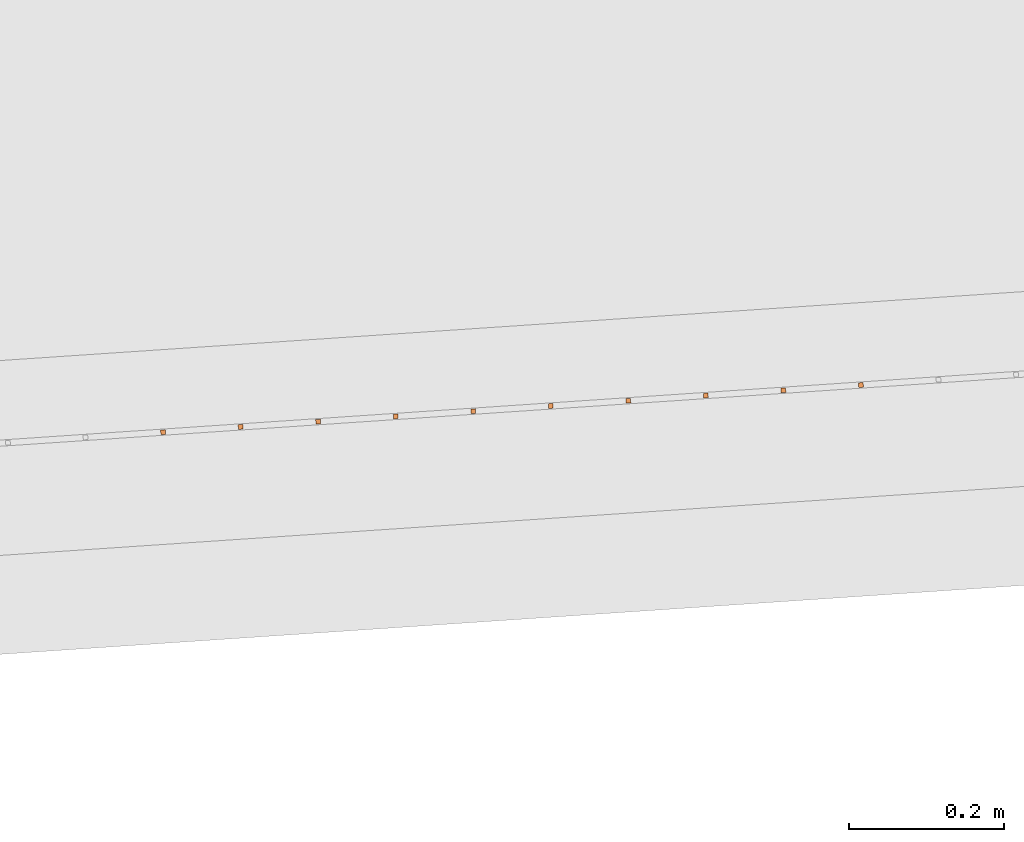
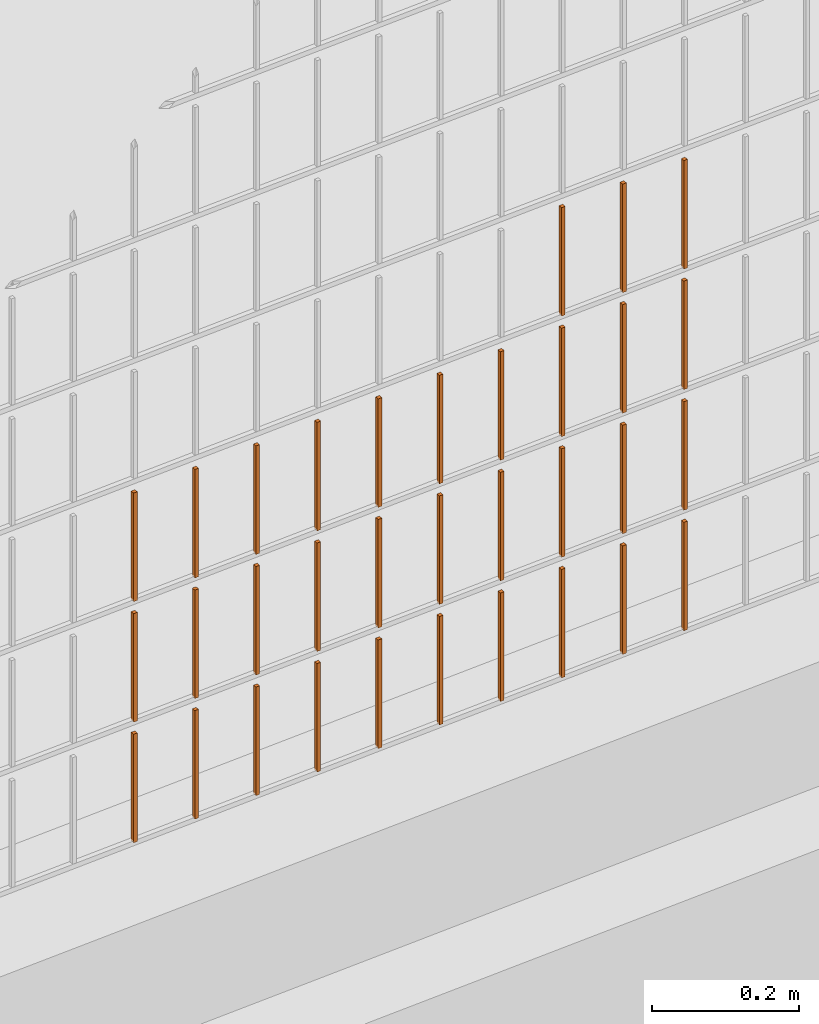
# One storey, part 325 of 1809: 33 proxies, 1 element without a shape of its own.
"""IFC2X3 building model written with IfcOpenShell, lengths in millimetres."""

from ifc_helpers import new_model, entity, si_unit, converted_unit, derived_unit, money_unit, direction, frame, origin_with_axes, place, context, subcontext, project, spatial, faceted_brep, source, transform, mapped, material, type_object, element, aggregate, save


model = new_model("IFC2X3")

# Units and contexts
model_context = context("Model", 3, precision=0.01, world=origin_with_axes(), true_north=direction((0.0, 1.0)))
body_context = subcontext(model_context, "Body", "Model", "MODEL_VIEW")
ifc_project = project(units=[si_unit("LENGTHUNIT", "METRE", prefix="MILLI"), si_unit("AREAUNIT", "SQUARE_METRE"), si_unit("VOLUMEUNIT", "CUBIC_METRE"), converted_unit("PLANEANGLEUNIT", "DEGREE", entity("IfcPlaneAngleMeasure", 0.0174532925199), si_unit("PLANEANGLEUNIT", "RADIAN"), dimensions=[0, 0, 0, 0, 0, 0, 0]), si_unit("SOLIDANGLEUNIT", "STERADIAN"), money_unit("EUR"), converted_unit("TIMEUNIT", "Year", entity("IfcTimeMeasure", 31556926.0), si_unit("TIMEUNIT", "SECOND"), dimensions=[0, 0, 1, 0, 0, 0, 0]), si_unit("MASSUNIT", "GRAM", prefix="KILO"), si_unit("THERMODYNAMICTEMPERATUREUNIT", "DEGREE_CELSIUS"), si_unit("LUMINOUSINTENSITYUNIT", "LUMEN"), si_unit("ENERGYUNIT", "JOULE", prefix="MEGA"), derived_unit("THERMALCONDUCTANCEUNIT", [(si_unit("POWERUNIT", "WATT"), 1), (si_unit("LENGTHUNIT", "METRE"), -1), (si_unit("THERMODYNAMICTEMPERATUREUNIT", "KELVIN"), -1)]), derived_unit("SPECIFICHEATCAPACITYUNIT", [(si_unit("ENERGYUNIT", "JOULE"), 1), (si_unit("MASSUNIT", "GRAM", prefix="KILO"), -1), (si_unit("THERMODYNAMICTEMPERATUREUNIT", "KELVIN"), -1)]), derived_unit("MASSDENSITYUNIT", [(si_unit("MASSUNIT", "GRAM", prefix="KILO"), 1), (si_unit("VOLUMEUNIT", "CUBIC_METRE"), -1)])], contexts=[model_context])

# Site, building, storey
site_placement = place(None, origin_with_axes())
site = spatial("IfcSite", under=ifc_project, at=site_placement, Name="Politse- ja Piirivalveameti ning Päästeameti ühishoone", CompositionType="ELEMENT")
building_placement = place(site_placement, origin_with_axes())
building = spatial("IfcBuilding", under=site, at=building_placement, Name="Politse- ja Piirivalveameti ning Päästeameti ühishoone", CompositionType="ELEMENT")
storey_placement = place(building_placement, origin_with_axes())
storey = spatial("IfcBuildingStorey", under=building, at=storey_placement, Name="Esimene korrus", CompositionType="ELEMENT", Elevation=0.0)

# Proxies
building_element_proxy_type_1 = type_object("IfcBuildingElementProxyType", Name="Railing Type", PredefinedType="NOTDEFINED")
proxy_1_placement = place(storey_placement, frame((89252.001212, -29183.4766571, 203.661247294), z_axis=(0.0, 0.0, 1.0), x_axis=(1.0, 0.0, 0.0)))
proxy_1 = element("IfcBuildingElementProxy", 1, at=proxy_1_placement, inside=storey, type_object=building_element_proxy_type_1, Name="PIIRDEAED")
ifc_material = material(Name="ET-03_Raud")
building_element_proxy_type_2 = type_object("IfcBuildingElementProxyType", Name="IfcBuildingElementProxy", PredefinedType="NOTDEFINED")
shared_shape_1 = source(origin_with_axes(), body_context, "Body", "Brep", [
    faceted_brep([(3.0, 3.0, -0.000752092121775), (-3.0, 3.0, -0.000752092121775), (-3.0, 3.0, 179.99926046), (3.0, 3.0, 179.99926046), (3.0, -3.0, 0.000752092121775), (-3.0, -3.0, 0.000752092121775), (-3.0, -3.0, 180.000764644), (3.0, -3.0, 180.000764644)], [[[0, 1, 2, 3]], [[0, 4, 5, 1]], [[1, 5, 6, 2]], [[3, 2, 6, 7]], [[4, 0, 3, 7]], [[5, 4, 7, 6]]]),
])
proxy_2_placement = place(proxy_1_placement, frame((-35745.2370775, -19712.2306285, 18.25272892), z_axis=(0.0, 0.0, 1.0), x_axis=(1.0, 0.0, 0.0)))
proxy_2 = element("IfcBuildingElementProxy", 2, at=proxy_2_placement, type_object=building_element_proxy_type_2, material=ifc_material, Name="BALUSTER - 001", context=body_context, shape_type="MappedRepresentation", body=[
    mapped(shared_shape_1, transform((0.0, 0.0, 0.0), x_axis=(-0.0673926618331, 0.997726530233, 0.0), y_axis=(-0.997726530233, -0.0673926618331, 0.0), z_axis=(0.0, 0.0, 1.0))),
])
shared_shape_2 = source(origin_with_axes(), body_context, "Body", "Brep", [
    faceted_brep([(3.0, 3.0, -0.000752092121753), (-3.0, 3.0, -0.000752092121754), (-3.0, 3.0, 179.99926046), (3.0, 3.0, 179.99926046), (3.0, -3.0, 0.000752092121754), (-3.0, -3.0, 0.000752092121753), (-3.0, -3.0, 180.000764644), (3.0, -3.0, 180.000764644)], [[[0, 1, 2, 3]], [[0, 4, 5, 1]], [[1, 5, 6, 2]], [[3, 2, 6, 7]], [[4, 0, 3, 7]], [[5, 4, 7, 6]]]),
])
proxy_3_placement = place(proxy_1_placement, frame((-36044.5550366, -19732.4484271, 18.1775197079), z_axis=(0.0, 0.0, 1.0), x_axis=(1.0, 0.0, 0.0)))
proxy_3 = element("IfcBuildingElementProxy", 3, at=proxy_3_placement, type_object=building_element_proxy_type_2, material=ifc_material, Name="BALUSTER - 001", context=body_context, shape_type="MappedRepresentation", body=[
    mapped(shared_shape_2, transform((0.0, 0.0, 0.0), x_axis=(-0.0673926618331, 0.997726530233, 0.0), y_axis=(-0.997726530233, -0.0673926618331, 0.0), z_axis=(0.0, 0.0, 1.0))),
])
shared_shape_3 = source(origin_with_axes(), body_context, "Body", "Brep", [
    faceted_brep([(3.0, 3.0, -0.000752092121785), (-3.0, 3.0, -0.000752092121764), (-3.0, 3.0, 179.99926046), (3.0, 3.0, 179.99926046), (3.0, -3.0, 0.000752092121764), (-3.0, -3.0, 0.000752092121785), (-3.0, -3.0, 180.000764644), (3.0, -3.0, 180.000764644)], [[[0, 1, 2, 3]], [[0, 4, 5, 1]], [[1, 5, 6, 2]], [[3, 2, 6, 7]], [[4, 0, 3, 7]], [[5, 4, 7, 6]]]),
])
proxy_4_placement = place(proxy_1_placement, frame((-36144.3276896, -19739.1876933, 18.1524499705), z_axis=(0.0, 0.0, 1.0), x_axis=(1.0, 0.0, 0.0)))
proxy_4 = element("IfcBuildingElementProxy", 4, at=proxy_4_placement, type_object=building_element_proxy_type_2, material=ifc_material, Name="BALUSTER - 001", context=body_context, shape_type="MappedRepresentation", body=[
    mapped(shared_shape_3, transform((0.0, 0.0, 0.0), x_axis=(-0.0673926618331, 0.997726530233, 0.0), y_axis=(-0.997726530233, -0.0673926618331, 0.0), z_axis=(0.0, 0.0, 1.0))),
])
shared_shape_4 = source(origin_with_axes(), body_context, "Body", "Brep", [
    faceted_brep([(3.0, 3.0, -0.000752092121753), (-3.0, 3.0, -0.000752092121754), (-3.0, 3.0, 179.99926046), (3.0, 3.0, 179.99926046), (3.0, -3.0, 0.000752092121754), (-3.0, -3.0, 0.000752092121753), (-3.0, -3.0, 180.000764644), (3.0, -3.0, 180.000764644)], [[[0, 1, 2, 3]], [[0, 4, 5, 1]], [[1, 5, 6, 2]], [[3, 2, 6, 7]], [[4, 0, 3, 7]], [[5, 4, 7, 6]]]),
])
proxy_5_placement = place(proxy_1_placement, frame((-36044.5550366, -19732.4484271, 218.177519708), z_axis=(0.0, 0.0, 1.0), x_axis=(1.0, 0.0, 0.0)))
proxy_5 = element("IfcBuildingElementProxy", 5, at=proxy_5_placement, type_object=building_element_proxy_type_2, material=ifc_material, Name="BALUSTER - 001", context=body_context, shape_type="MappedRepresentation", body=[
    mapped(shared_shape_4, transform((0.0, 0.0, 0.0), x_axis=(-0.0673926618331, 0.997726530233, 0.0), y_axis=(-0.997726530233, -0.0673926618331, 0.0), z_axis=(0.0, 0.0, 1.0))),
])
shared_shape_5 = source(origin_with_axes(), body_context, "Body", "Brep", [
    faceted_brep([(3.0, 3.0, -0.000752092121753), (-3.0, 3.0, -0.000752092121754), (-3.0, 3.0, 179.99926046), (3.0, 3.0, 179.99926046), (3.0, -3.0, 0.000752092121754), (-3.0, -3.0, 0.000752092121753), (-3.0, -3.0, 180.000764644), (3.0, -3.0, 180.000764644)], [[[0, 1, 2, 3]], [[0, 4, 5, 1]], [[1, 5, 6, 2]], [[3, 2, 6, 7]], [[4, 0, 3, 7]], [[5, 4, 7, 6]]]),
])
proxy_6_placement = place(proxy_1_placement, frame((-36044.5550366, -19732.4484271, 418.177519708), z_axis=(0.0, 0.0, 1.0), x_axis=(1.0, 0.0, 0.0)))
proxy_6 = element("IfcBuildingElementProxy", 6, at=proxy_6_placement, type_object=building_element_proxy_type_2, material=ifc_material, Name="BALUSTER - 001", context=body_context, shape_type="MappedRepresentation", body=[
    mapped(shared_shape_5, transform((0.0, 0.0, 0.0), x_axis=(-0.0673926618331, 0.997726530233, 0.0), y_axis=(-0.997726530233, -0.0673926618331, 0.0), z_axis=(0.0, 0.0, 1.0))),
])
shared_shape_6 = source(origin_with_axes(), body_context, "Body", "Brep", [
    faceted_brep([(3.0, 3.0, -0.000752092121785), (-3.0, 3.0, -0.000752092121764), (-3.0, 3.0, 179.99926046), (3.0, 3.0, 179.99926046), (3.0, -3.0, 0.000752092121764), (-3.0, -3.0, 0.000752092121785), (-3.0, -3.0, 180.000764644), (3.0, -3.0, 180.000764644)], [[[0, 1, 2, 3]], [[0, 4, 5, 1]], [[1, 5, 6, 2]], [[3, 2, 6, 7]], [[4, 0, 3, 7]], [[5, 4, 7, 6]]]),
])
proxy_7_placement = place(proxy_1_placement, frame((-36144.3276896, -19739.1876933, 218.15244997), z_axis=(0.0, 0.0, 1.0), x_axis=(1.0, 0.0, 0.0)))
proxy_7 = element("IfcBuildingElementProxy", 7, at=proxy_7_placement, type_object=building_element_proxy_type_2, material=ifc_material, Name="BALUSTER - 001", context=body_context, shape_type="MappedRepresentation", body=[
    mapped(shared_shape_6, transform((0.0, 0.0, 0.0), x_axis=(-0.0673926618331, 0.997726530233, 0.0), y_axis=(-0.997726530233, -0.0673926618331, 0.0), z_axis=(0.0, 0.0, 1.0))),
])
shared_shape_7 = source(origin_with_axes(), body_context, "Body", "Brep", [
    faceted_brep([(3.0, 3.0, -0.000752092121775), (-3.0, 3.0, -0.000752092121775), (-3.0, 3.0, 179.99926046), (3.0, 3.0, 179.99926046), (3.0, -3.0, 0.000752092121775), (-3.0, -3.0, 0.000752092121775), (-3.0, -3.0, 180.000764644), (3.0, -3.0, 180.000764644)], [[[0, 1, 2, 3]], [[0, 4, 5, 1]], [[1, 5, 6, 2]], [[3, 2, 6, 7]], [[4, 0, 3, 7]], [[5, 4, 7, 6]]]),
])
proxy_8_placement = place(proxy_1_placement, frame((-35745.2370775, -19712.2306285, 218.25272892), z_axis=(0.0, 0.0, 1.0), x_axis=(1.0, 0.0, 0.0)))
proxy_8 = element("IfcBuildingElementProxy", 8, at=proxy_8_placement, type_object=building_element_proxy_type_2, material=ifc_material, Name="BALUSTER - 001", context=body_context, shape_type="MappedRepresentation", body=[
    mapped(shared_shape_7, transform((0.0, 0.0, 0.0), x_axis=(-0.0673926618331, 0.997726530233, 0.0), y_axis=(-0.997726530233, -0.0673926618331, 0.0), z_axis=(0.0, 0.0, 1.0))),
])
shared_shape_8 = source(origin_with_axes(), body_context, "Body", "Brep", [
    faceted_brep([(3.0, 3.0, -0.000752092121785), (-3.0, 3.0, -0.000752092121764), (-3.0, 3.0, 179.99926046), (3.0, 3.0, 179.99926046), (3.0, -3.0, 0.000752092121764), (-3.0, -3.0, 0.000752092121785), (-3.0, -3.0, 180.000764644), (3.0, -3.0, 180.000764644)], [[[0, 1, 2, 3]], [[0, 4, 5, 1]], [[1, 5, 6, 2]], [[3, 2, 6, 7]], [[4, 0, 3, 7]], [[5, 4, 7, 6]]]),
])
proxy_9_placement = place(proxy_1_placement, frame((-36144.3276896, -19739.1876933, 418.15244997), z_axis=(0.0, 0.0, 1.0), x_axis=(1.0, 0.0, 0.0)))
proxy_9 = element("IfcBuildingElementProxy", 9, at=proxy_9_placement, type_object=building_element_proxy_type_2, material=ifc_material, Name="BALUSTER - 001", context=body_context, shape_type="MappedRepresentation", body=[
    mapped(shared_shape_8, transform((0.0, 0.0, 0.0), x_axis=(-0.0673926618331, 0.997726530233, 0.0), y_axis=(-0.997726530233, -0.0673926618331, 0.0), z_axis=(0.0, 0.0, 1.0))),
])
shared_shape_9 = source(origin_with_axes(), body_context, "Body", "Brep", [
    faceted_brep([(3.0, 3.0, -0.000752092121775), (-3.0, 3.0, -0.000752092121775), (-3.0, 3.0, 179.99926046), (3.0, 3.0, 179.99926046), (3.0, -3.0, 0.000752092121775), (-3.0, -3.0, 0.000752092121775), (-3.0, -3.0, 180.000764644), (3.0, -3.0, 180.000764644)], [[[0, 1, 2, 3]], [[0, 4, 5, 1]], [[1, 5, 6, 2]], [[3, 2, 6, 7]], [[4, 0, 3, 7]], [[5, 4, 7, 6]]]),
])
proxy_10_placement = place(proxy_1_placement, frame((-35745.2370775, -19712.2306285, 418.25272892), z_axis=(0.0, 0.0, 1.0), x_axis=(1.0, 0.0, 0.0)))
proxy_10 = element("IfcBuildingElementProxy", 10, at=proxy_10_placement, type_object=building_element_proxy_type_2, material=ifc_material, Name="BALUSTER - 001", context=body_context, shape_type="MappedRepresentation", body=[
    mapped(shared_shape_9, transform((0.0, 0.0, 0.0), x_axis=(-0.0673926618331, 0.997726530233, 0.0), y_axis=(-0.997726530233, -0.0673926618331, 0.0), z_axis=(0.0, 0.0, 1.0))),
])
shared_shape_10 = source(origin_with_axes(), body_context, "Body", "Brep", [
    faceted_brep([(3.0, 3.0, -0.000752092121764), (-3.0, 3.0, -0.000752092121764), (-3.0, 3.0, 179.99926046), (3.0, 3.0, 179.99926046), (3.0, -3.0, 0.000752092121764), (-3.0, -3.0, 0.000752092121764), (-3.0, -3.0, 180.000764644), (3.0, -3.0, 180.000764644)], [[[0, 1, 2, 3]], [[0, 4, 5, 1]], [[1, 5, 6, 2]], [[3, 2, 6, 7]], [[4, 0, 3, 7]], [[5, 4, 7, 6]]]),
])
proxy_11_placement = place(proxy_1_placement, frame((-35845.0097306, -19718.9698947, 18.2276591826), z_axis=(0.0, 0.0, 1.0), x_axis=(1.0, 0.0, 0.0)))
proxy_11 = element("IfcBuildingElementProxy", 11, at=proxy_11_placement, type_object=building_element_proxy_type_2, material=ifc_material, Name="BALUSTER - 001", context=body_context, shape_type="MappedRepresentation", body=[
    mapped(shared_shape_10, transform((0.0, 0.0, 0.0), x_axis=(-0.0673926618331, 0.997726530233, 0.0), y_axis=(-0.997726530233, -0.0673926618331, 0.0), z_axis=(0.0, 0.0, 1.0))),
])
shared_shape_11 = source(origin_with_axes(), body_context, "Body", "Brep", [
    faceted_brep([(3.0, 3.0, -0.000752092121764), (-3.0, 3.0, -0.000752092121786), (-3.0, 3.0, 179.99926046), (3.0, 3.0, 179.99926046), (3.0, -3.0, 0.000752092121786), (-3.0, -3.0, 0.000752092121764), (-3.0, -3.0, 180.000764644), (3.0, -3.0, 180.000764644)], [[[0, 1, 2, 3]], [[0, 4, 5, 1]], [[1, 5, 6, 2]], [[3, 2, 6, 7]], [[4, 0, 3, 7]], [[5, 4, 7, 6]]]),
])
proxy_12_placement = place(proxy_1_placement, frame((-35645.4644245, -19705.4913624, 18.2777986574), z_axis=(0.0, 0.0, 1.0), x_axis=(1.0, 0.0, 0.0)))
proxy_12 = element("IfcBuildingElementProxy", 12, at=proxy_12_placement, type_object=building_element_proxy_type_2, material=ifc_material, Name="BALUSTER - 001", context=body_context, shape_type="MappedRepresentation", body=[
    mapped(shared_shape_11, transform((0.0, 0.0, 0.0), x_axis=(-0.0673926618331, 0.997726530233, 0.0), y_axis=(-0.997726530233, -0.0673926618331, 0.0), z_axis=(0.0, 0.0, 1.0))),
])
proxy_13_placement = place(proxy_1_placement, frame((-35645.4644245, -19705.4913624, 218.277798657), z_axis=(0.0, 0.0, 1.0), x_axis=(1.0, 0.0, 0.0)))
proxy_13 = element("IfcBuildingElementProxy", 13, at=proxy_13_placement, type_object=building_element_proxy_type_2, material=ifc_material, Name="BALUSTER - 001", context=body_context, shape_type="MappedRepresentation", body=[
    mapped(shared_shape_11, transform((0.0, 0.0, 0.0), x_axis=(-0.0673926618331, 0.997726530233, 0.0), y_axis=(-0.997726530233, -0.0673926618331, 0.0), z_axis=(0.0, 0.0, 1.0))),
])
shared_shape_12 = source(origin_with_axes(), body_context, "Body", "Brep", [
    faceted_brep([(3.0, 3.0, -0.000752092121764), (-3.0, 3.0, -0.000752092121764), (-3.0, 3.0, 179.99926046), (3.0, 3.0, 179.99926046), (3.0, -3.0, 0.000752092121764), (-3.0, -3.0, 0.000752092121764), (-3.0, -3.0, 180.000764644), (3.0, -3.0, 180.000764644)], [[[0, 1, 2, 3]], [[0, 4, 5, 1]], [[1, 5, 6, 2]], [[3, 2, 6, 7]], [[4, 0, 3, 7]], [[5, 4, 7, 6]]]),
])
proxy_14_placement = place(proxy_1_placement, frame((-35845.0097306, -19718.9698947, 218.227659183), z_axis=(0.0, 0.0, 1.0), x_axis=(1.0, 0.0, 0.0)))
proxy_14 = element("IfcBuildingElementProxy", 14, at=proxy_14_placement, type_object=building_element_proxy_type_2, material=ifc_material, Name="BALUSTER - 001", context=body_context, shape_type="MappedRepresentation", body=[
    mapped(shared_shape_12, transform((0.0, 0.0, 0.0), x_axis=(-0.0673926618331, 0.997726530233, 0.0), y_axis=(-0.997726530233, -0.0673926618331, 0.0), z_axis=(0.0, 0.0, 1.0))),
])
proxy_15_placement = place(proxy_1_placement, frame((-35845.0097306, -19718.9698947, 418.227659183), z_axis=(0.0, 0.0, 1.0), x_axis=(1.0, 0.0, 0.0)))
proxy_15 = element("IfcBuildingElementProxy", 15, at=proxy_15_placement, type_object=building_element_proxy_type_2, material=ifc_material, Name="BALUSTER - 001", context=body_context, shape_type="MappedRepresentation", body=[
    mapped(shared_shape_12, transform((0.0, 0.0, 0.0), x_axis=(-0.0673926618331, 0.997726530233, 0.0), y_axis=(-0.997726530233, -0.0673926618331, 0.0), z_axis=(0.0, 0.0, 1.0))),
])
shared_shape_13 = source(origin_with_axes(), body_context, "Body", "Brep", [
    faceted_brep([(3.0, 3.0, -0.000752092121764), (-3.0, 3.0, -0.000752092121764), (-3.0, 3.0, 179.99926046), (3.0, 3.0, 179.99926046), (3.0, -3.0, 0.000752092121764), (-3.0, -3.0, 0.000752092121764), (-3.0, -3.0, 180.000764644), (3.0, -3.0, 180.000764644)], [[[0, 1, 2, 3]], [[0, 4, 5, 1]], [[1, 5, 6, 2]], [[3, 2, 6, 7]], [[4, 0, 3, 7]], [[5, 4, 7, 6]]]),
])
proxy_16_placement = place(proxy_1_placement, frame((-35346.1464654, -19685.2735638, 218.35300787), z_axis=(0.0, 0.0, 1.0), x_axis=(1.0, 0.0, 0.0)))
proxy_16 = element("IfcBuildingElementProxy", 16, at=proxy_16_placement, type_object=building_element_proxy_type_2, material=ifc_material, Name="BALUSTER - 001", context=body_context, shape_type="MappedRepresentation", body=[
    mapped(shared_shape_13, transform((0.0, 0.0, 0.0), x_axis=(-0.0673926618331, 0.997726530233, 0.0), y_axis=(-0.997726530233, -0.0673926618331, 0.0), z_axis=(0.0, 0.0, 1.0))),
])
proxy_17_placement = place(proxy_1_placement, frame((-35346.1464654, -19685.2735638, 418.35300787), z_axis=(0.0, 0.0, 1.0), x_axis=(1.0, 0.0, 0.0)))
proxy_17 = element("IfcBuildingElementProxy", 17, at=proxy_17_placement, type_object=building_element_proxy_type_2, material=ifc_material, Name="BALUSTER - 001", context=body_context, shape_type="MappedRepresentation", body=[
    mapped(shared_shape_13, transform((0.0, 0.0, 0.0), x_axis=(-0.0673926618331, 0.997726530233, 0.0), y_axis=(-0.997726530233, -0.0673926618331, 0.0), z_axis=(0.0, 0.0, 1.0))),
])
shared_shape_14 = source(origin_with_axes(), body_context, "Body", "Brep", [
    faceted_brep([(3.0, 3.0, -0.000752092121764), (-3.0, 3.0, -0.000752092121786), (-3.0, 3.0, 179.99926046), (3.0, 3.0, 179.99926046), (3.0, -3.0, 0.000752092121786), (-3.0, -3.0, 0.000752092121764), (-3.0, -3.0, 180.000764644), (3.0, -3.0, 180.000764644)], [[[0, 1, 2, 3]], [[0, 4, 5, 1]], [[1, 5, 6, 2]], [[3, 2, 6, 7]], [[4, 0, 3, 7]], [[5, 4, 7, 6]]]),
])
proxy_18_placement = place(proxy_1_placement, frame((-35445.9191185, -19692.01283, 418.327938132), z_axis=(0.0, 0.0, 1.0), x_axis=(1.0, 0.0, 0.0)))
proxy_18 = element("IfcBuildingElementProxy", 18, at=proxy_18_placement, type_object=building_element_proxy_type_2, material=ifc_material, Name="BALUSTER - 001", context=body_context, shape_type="MappedRepresentation", body=[
    mapped(shared_shape_14, transform((0.0, 0.0, 0.0), x_axis=(-0.0673926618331, 0.997726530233, 0.0), y_axis=(-0.997726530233, -0.0673926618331, 0.0), z_axis=(0.0, 0.0, 1.0))),
])
proxy_19_placement = place(proxy_1_placement, frame((-35645.4644245, -19705.4913624, 418.277798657), z_axis=(0.0, 0.0, 1.0), x_axis=(1.0, 0.0, 0.0)))
proxy_19 = element("IfcBuildingElementProxy", 19, at=proxy_19_placement, type_object=building_element_proxy_type_2, material=ifc_material, Name="BALUSTER - 001", context=body_context, shape_type="MappedRepresentation", body=[
    mapped(shared_shape_14, transform((0.0, 0.0, 0.0), x_axis=(-0.0673926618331, 0.997726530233, 0.0), y_axis=(-0.997726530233, -0.0673926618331, 0.0), z_axis=(0.0, 0.0, 1.0))),
])
proxy_20_placement = place(proxy_1_placement, frame((-35445.9191185, -19692.01283, 618.327938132), z_axis=(0.0, 0.0, 1.0), x_axis=(1.0, 0.0, 0.0)))
proxy_20 = element("IfcBuildingElementProxy", 20, at=proxy_20_placement, type_object=building_element_proxy_type_2, material=ifc_material, Name="BALUSTER - 001", context=body_context, shape_type="MappedRepresentation", body=[
    mapped(shared_shape_14, transform((0.0, 0.0, 0.0), x_axis=(-0.0673926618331, 0.997726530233, 0.0), y_axis=(-0.997726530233, -0.0673926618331, 0.0), z_axis=(0.0, 0.0, 1.0))),
])
shared_shape_15 = source(origin_with_axes(), body_context, "Body", "Brep", [
    faceted_brep([(3.0, 3.0, -0.000752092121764), (-3.0, 3.0, -0.000752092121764), (-3.0, 3.0, 179.99926046), (3.0, 3.0, 179.99926046), (3.0, -3.0, 0.000752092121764), (-3.0, -3.0, 0.000752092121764), (-3.0, -3.0, 180.000764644), (3.0, -3.0, 180.000764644)], [[[0, 1, 2, 3]], [[0, 4, 5, 1]], [[1, 5, 6, 2]], [[3, 2, 6, 7]], [[4, 0, 3, 7]], [[5, 4, 7, 6]]]),
])
proxy_21_placement = place(proxy_1_placement, frame((-35944.7823836, -19725.7091609, 218.202589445), z_axis=(0.0, 0.0, 1.0), x_axis=(1.0, 0.0, 0.0)))
proxy_21 = element("IfcBuildingElementProxy", 21, at=proxy_21_placement, type_object=building_element_proxy_type_2, material=ifc_material, Name="BALUSTER - 001", context=body_context, shape_type="MappedRepresentation", body=[
    mapped(shared_shape_15, transform((0.0, 0.0, 0.0), x_axis=(-0.0673926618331, 0.997726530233, 0.0), y_axis=(-0.997726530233, -0.0673926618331, 0.0), z_axis=(0.0, 0.0, 1.0))),
])
shared_shape_16 = source(origin_with_axes(), body_context, "Body", "Brep", [
    faceted_brep([(3.0, 3.0, -0.000752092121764), (-3.0, 3.0, -0.000752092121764), (-3.0, 3.0, 179.99926046), (3.0, 3.0, 179.99926046), (3.0, -3.0, 0.000752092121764), (-3.0, -3.0, 0.000752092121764), (-3.0, -3.0, 180.000764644), (3.0, -3.0, 180.000764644)], [[[0, 1, 2, 3]], [[0, 4, 5, 1]], [[1, 5, 6, 2]], [[3, 2, 6, 7]], [[4, 0, 3, 7]], [[5, 4, 7, 6]]]),
])
proxy_22_placement = place(proxy_1_placement, frame((-35346.1464654, -19685.2735638, 618.35300787), z_axis=(0.0, 0.0, 1.0), x_axis=(1.0, 0.0, 0.0)))
proxy_22 = element("IfcBuildingElementProxy", 22, at=proxy_22_placement, type_object=building_element_proxy_type_2, material=ifc_material, Name="BALUSTER - 001", context=body_context, shape_type="MappedRepresentation", body=[
    mapped(shared_shape_16, transform((0.0, 0.0, 0.0), x_axis=(-0.0673926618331, 0.997726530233, 0.0), y_axis=(-0.997726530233, -0.0673926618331, 0.0), z_axis=(0.0, 0.0, 1.0))),
])
shared_shape_17 = source(origin_with_axes(), body_context, "Body", "Brep", [
    faceted_brep([(3.0, 3.0, -0.000752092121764), (-3.0, 3.0, -0.000752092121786), (-3.0, 3.0, 179.99926046), (3.0, 3.0, 179.99926046), (3.0, -3.0, 0.000752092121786), (-3.0, -3.0, 0.000752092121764), (-3.0, -3.0, 180.000764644), (3.0, -3.0, 180.000764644)], [[[0, 1, 2, 3]], [[0, 4, 5, 1]], [[1, 5, 6, 2]], [[3, 2, 6, 7]], [[4, 0, 3, 7]], [[5, 4, 7, 6]]]),
])
proxy_23_placement = place(proxy_1_placement, frame((-35445.9191185, -19692.01283, 18.3279381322), z_axis=(0.0, 0.0, 1.0), x_axis=(1.0, 0.0, 0.0)))
proxy_23 = element("IfcBuildingElementProxy", 23, at=proxy_23_placement, type_object=building_element_proxy_type_2, material=ifc_material, Name="BALUSTER - 001", context=body_context, shape_type="MappedRepresentation", body=[
    mapped(shared_shape_17, transform((0.0, 0.0, 0.0), x_axis=(-0.0673926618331, 0.997726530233, 0.0), y_axis=(-0.997726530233, -0.0673926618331, 0.0), z_axis=(0.0, 0.0, 1.0))),
])
shared_shape_18 = source(origin_with_axes(), body_context, "Body", "Brep", [
    faceted_brep([(3.0, 3.0, -0.000752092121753), (-3.0, 3.0, -0.000752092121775), (-3.0, 3.0, 179.99926046), (3.0, 3.0, 179.99926046), (3.0, -3.0, 0.000752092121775), (-3.0, -3.0, 0.000752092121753), (-3.0, -3.0, 180.000764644), (3.0, -3.0, 180.000764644)], [[[0, 1, 2, 3]], [[0, 4, 5, 1]], [[1, 5, 6, 2]], [[3, 2, 6, 7]], [[4, 0, 3, 7]], [[5, 4, 7, 6]]]),
])
proxy_24_placement = place(proxy_1_placement, frame((-35246.3738124, -19678.5342976, 418.378077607), z_axis=(0.0, 0.0, 1.0), x_axis=(1.0, 0.0, 0.0)))
proxy_24 = element("IfcBuildingElementProxy", 24, at=proxy_24_placement, type_object=building_element_proxy_type_2, material=ifc_material, Name="BALUSTER - 001", context=body_context, shape_type="MappedRepresentation", body=[
    mapped(shared_shape_18, transform((0.0, 0.0, 0.0), x_axis=(-0.0673926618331, 0.997726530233, 0.0), y_axis=(-0.997726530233, -0.0673926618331, 0.0), z_axis=(0.0, 0.0, 1.0))),
])
shared_shape_19 = source(origin_with_axes(), body_context, "Body", "Brep", [
    faceted_brep([(3.0, 3.0, -0.000752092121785), (-3.0, 3.0, -0.000752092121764), (-3.0, 3.0, 179.99926046), (3.0, 3.0, 179.99926046), (3.0, -3.0, 0.000752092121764), (-3.0, -3.0, 0.000752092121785), (-3.0, -3.0, 180.000764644), (3.0, -3.0, 180.000764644)], [[[0, 1, 2, 3]], [[0, 4, 5, 1]], [[1, 5, 6, 2]], [[3, 2, 6, 7]], [[4, 0, 3, 7]], [[5, 4, 7, 6]]]),
])
proxy_25_placement = place(proxy_1_placement, frame((-35545.6917715, -19698.7520962, 18.3028683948), z_axis=(0.0, 0.0, 1.0), x_axis=(1.0, 0.0, 0.0)))
proxy_25 = element("IfcBuildingElementProxy", 25, at=proxy_25_placement, type_object=building_element_proxy_type_2, material=ifc_material, Name="BALUSTER - 001", context=body_context, shape_type="MappedRepresentation", body=[
    mapped(shared_shape_19, transform((0.0, 0.0, 0.0), x_axis=(-0.0673926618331, 0.997726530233, 0.0), y_axis=(-0.997726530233, -0.0673926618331, 0.0), z_axis=(0.0, 0.0, 1.0))),
])
shared_shape_20 = source(origin_with_axes(), body_context, "Body", "Brep", [
    faceted_brep([(3.0, 3.0, -0.000752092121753), (-3.0, 3.0, -0.000752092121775), (-3.0, 3.0, 179.99926046), (3.0, 3.0, 179.99926046), (3.0, -3.0, 0.000752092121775), (-3.0, -3.0, 0.000752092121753), (-3.0, -3.0, 180.000764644), (3.0, -3.0, 180.000764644)], [[[0, 1, 2, 3]], [[0, 4, 5, 1]], [[1, 5, 6, 2]], [[3, 2, 6, 7]], [[4, 0, 3, 7]], [[5, 4, 7, 6]]]),
])
proxy_26_placement = place(proxy_1_placement, frame((-35246.3738124, -19678.5342976, 218.378077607), z_axis=(0.0, 0.0, 1.0), x_axis=(1.0, 0.0, 0.0)))
proxy_26 = element("IfcBuildingElementProxy", 26, at=proxy_26_placement, type_object=building_element_proxy_type_2, material=ifc_material, Name="BALUSTER - 001", context=body_context, shape_type="MappedRepresentation", body=[
    mapped(shared_shape_20, transform((0.0, 0.0, 0.0), x_axis=(-0.0673926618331, 0.997726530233, 0.0), y_axis=(-0.997726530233, -0.0673926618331, 0.0), z_axis=(0.0, 0.0, 1.0))),
])
proxy_27_placement = place(proxy_1_placement, frame((-35246.3738124, -19678.5342976, 618.378077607), z_axis=(0.0, 0.0, 1.0), x_axis=(1.0, 0.0, 0.0)))
proxy_27 = element("IfcBuildingElementProxy", 27, at=proxy_27_placement, type_object=building_element_proxy_type_2, material=ifc_material, Name="BALUSTER - 001", context=body_context, shape_type="MappedRepresentation", body=[
    mapped(shared_shape_20, transform((0.0, 0.0, 0.0), x_axis=(-0.0673926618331, 0.997726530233, 0.0), y_axis=(-0.997726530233, -0.0673926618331, 0.0), z_axis=(0.0, 0.0, 1.0))),
])
shared_shape_21 = source(origin_with_axes(), body_context, "Body", "Brep", [
    faceted_brep([(3.0, 3.0, -0.000752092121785), (-3.0, 3.0, -0.000752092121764), (-3.0, 3.0, 179.99926046), (3.0, 3.0, 179.99926046), (3.0, -3.0, 0.000752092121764), (-3.0, -3.0, 0.000752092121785), (-3.0, -3.0, 180.000764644), (3.0, -3.0, 180.000764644)], [[[0, 1, 2, 3]], [[0, 4, 5, 1]], [[1, 5, 6, 2]], [[3, 2, 6, 7]], [[4, 0, 3, 7]], [[5, 4, 7, 6]]]),
])
proxy_28_placement = place(proxy_1_placement, frame((-35545.6917715, -19698.7520962, 218.302868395), z_axis=(0.0, 0.0, 1.0), x_axis=(1.0, 0.0, 0.0)))
proxy_28 = element("IfcBuildingElementProxy", 28, at=proxy_28_placement, type_object=building_element_proxy_type_2, material=ifc_material, Name="BALUSTER - 001", context=body_context, shape_type="MappedRepresentation", body=[
    mapped(shared_shape_21, transform((0.0, 0.0, 0.0), x_axis=(-0.0673926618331, 0.997726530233, 0.0), y_axis=(-0.997726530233, -0.0673926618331, 0.0), z_axis=(0.0, 0.0, 1.0))),
])
shared_shape_22 = source(origin_with_axes(), body_context, "Body", "Brep", [
    faceted_brep([(3.0, 3.0, -0.000752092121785), (-3.0, 3.0, -0.000752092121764), (-3.0, 3.0, 179.99926046), (3.0, 3.0, 179.99926046), (3.0, -3.0, 0.000752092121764), (-3.0, -3.0, 0.000752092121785), (-3.0, -3.0, 180.000764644), (3.0, -3.0, 180.000764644)], [[[0, 1, 2, 3]], [[0, 4, 5, 1]], [[1, 5, 6, 2]], [[3, 2, 6, 7]], [[4, 0, 3, 7]], [[5, 4, 7, 6]]]),
])
proxy_29_placement = place(proxy_1_placement, frame((-35545.6917715, -19698.7520962, 418.302868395), z_axis=(0.0, 0.0, 1.0), x_axis=(1.0, 0.0, 0.0)))
proxy_29 = element("IfcBuildingElementProxy", 29, at=proxy_29_placement, type_object=building_element_proxy_type_2, material=ifc_material, Name="BALUSTER - 001", context=body_context, shape_type="MappedRepresentation", body=[
    mapped(shared_shape_22, transform((0.0, 0.0, 0.0), x_axis=(-0.0673926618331, 0.997726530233, 0.0), y_axis=(-0.997726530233, -0.0673926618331, 0.0), z_axis=(0.0, 0.0, 1.0))),
])
shared_shape_23 = source(origin_with_axes(), body_context, "Body", "Brep", [
    faceted_brep([(3.0, 3.0, -0.000752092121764), (-3.0, 3.0, -0.000752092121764), (-3.0, 3.0, 179.99926046), (3.0, 3.0, 179.99926046), (3.0, -3.0, 0.000752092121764), (-3.0, -3.0, 0.000752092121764), (-3.0, -3.0, 180.000764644), (3.0, -3.0, 180.000764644)], [[[0, 1, 2, 3]], [[0, 4, 5, 1]], [[1, 5, 6, 2]], [[3, 2, 6, 7]], [[4, 0, 3, 7]], [[5, 4, 7, 6]]]),
])
proxy_30_placement = place(proxy_1_placement, frame((-35944.7823836, -19725.7091609, 18.2025894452), z_axis=(0.0, 0.0, 1.0), x_axis=(1.0, 0.0, 0.0)))
proxy_30 = element("IfcBuildingElementProxy", 30, at=proxy_30_placement, type_object=building_element_proxy_type_2, material=ifc_material, Name="BALUSTER - 001", context=body_context, shape_type="MappedRepresentation", body=[
    mapped(shared_shape_23, transform((0.0, 0.0, 0.0), x_axis=(-0.0673926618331, 0.997726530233, 0.0), y_axis=(-0.997726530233, -0.0673926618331, 0.0), z_axis=(0.0, 0.0, 1.0))),
])
shared_shape_24 = source(origin_with_axes(), body_context, "Body", "Brep", [
    faceted_brep([(3.0, 3.0, -0.000752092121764), (-3.0, 3.0, -0.000752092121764), (-3.0, 3.0, 179.99926046), (3.0, 3.0, 179.99926046), (3.0, -3.0, 0.000752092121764), (-3.0, -3.0, 0.000752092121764), (-3.0, -3.0, 180.000764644), (3.0, -3.0, 180.000764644)], [[[0, 1, 2, 3]], [[0, 4, 5, 1]], [[1, 5, 6, 2]], [[3, 2, 6, 7]], [[4, 0, 3, 7]], [[5, 4, 7, 6]]]),
])
proxy_31_placement = place(proxy_1_placement, frame((-35346.1464654, -19685.2735638, 18.3530078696), z_axis=(0.0, 0.0, 1.0), x_axis=(1.0, 0.0, 0.0)))
proxy_31 = element("IfcBuildingElementProxy", 31, at=proxy_31_placement, type_object=building_element_proxy_type_2, material=ifc_material, Name="BALUSTER - 001", context=body_context, shape_type="MappedRepresentation", body=[
    mapped(shared_shape_24, transform((0.0, 0.0, 0.0), x_axis=(-0.0673926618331, 0.997726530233, 0.0), y_axis=(-0.997726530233, -0.0673926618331, 0.0), z_axis=(0.0, 0.0, 1.0))),
])
shared_shape_25 = source(origin_with_axes(), body_context, "Body", "Brep", [
    faceted_brep([(3.0, 3.0, -0.000752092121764), (-3.0, 3.0, -0.000752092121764), (-3.0, 3.0, 179.99926046), (3.0, 3.0, 179.99926046), (3.0, -3.0, 0.000752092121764), (-3.0, -3.0, 0.000752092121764), (-3.0, -3.0, 180.000764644), (3.0, -3.0, 180.000764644)], [[[0, 1, 2, 3]], [[0, 4, 5, 1]], [[1, 5, 6, 2]], [[3, 2, 6, 7]], [[4, 0, 3, 7]], [[5, 4, 7, 6]]]),
])
proxy_32_placement = place(proxy_1_placement, frame((-35944.7823836, -19725.7091609, 418.202589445), z_axis=(0.0, 0.0, 1.0), x_axis=(1.0, 0.0, 0.0)))
proxy_32 = element("IfcBuildingElementProxy", 32, at=proxy_32_placement, type_object=building_element_proxy_type_2, material=ifc_material, Name="BALUSTER - 001", context=body_context, shape_type="MappedRepresentation", body=[
    mapped(shared_shape_25, transform((0.0, 0.0, 0.0), x_axis=(-0.0673926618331, 0.997726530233, 0.0), y_axis=(-0.997726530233, -0.0673926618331, 0.0), z_axis=(0.0, 0.0, 1.0))),
])
shared_shape_26 = source(origin_with_axes(), body_context, "Body", "Brep", [
    faceted_brep([(3.0, 3.0, -0.000752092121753), (-3.0, 3.0, -0.000752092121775), (-3.0, 3.0, 179.99926046), (3.0, 3.0, 179.99926046), (3.0, -3.0, 0.000752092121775), (-3.0, -3.0, 0.000752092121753), (-3.0, -3.0, 180.000764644), (3.0, -3.0, 180.000764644)], [[[0, 1, 2, 3]], [[0, 4, 5, 1]], [[1, 5, 6, 2]], [[3, 2, 6, 7]], [[4, 0, 3, 7]], [[5, 4, 7, 6]]]),
])
proxy_33_placement = place(proxy_1_placement, frame((-35246.3738124, -19678.5342976, 18.378077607), z_axis=(0.0, 0.0, 1.0), x_axis=(1.0, 0.0, 0.0)))
proxy_33 = element("IfcBuildingElementProxy", 33, at=proxy_33_placement, type_object=building_element_proxy_type_2, material=ifc_material, Name="BALUSTER - 001", context=body_context, shape_type="MappedRepresentation", body=[
    mapped(shared_shape_26, transform((0.0, 0.0, 0.0), x_axis=(-0.0673926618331, 0.997726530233, 0.0), y_axis=(-0.997726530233, -0.0673926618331, 0.0), z_axis=(0.0, 0.0, 1.0))),
])
shared_shape_27 = source(origin_with_axes(), body_context, "Body", "Brep", [
    faceted_brep([(3.0, 3.0, -0.000752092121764), (-3.0, 3.0, -0.000752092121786), (-3.0, 3.0, 179.99926046), (3.0, 3.0, 179.99926046), (3.0, -3.0, 0.000752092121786), (-3.0, -3.0, 0.000752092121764), (-3.0, -3.0, 180.000764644), (3.0, -3.0, 180.000764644)], [[[0, 1, 2, 3]], [[0, 4, 5, 1]], [[1, 5, 6, 2]], [[3, 2, 6, 7]], [[4, 0, 3, 7]], [[5, 4, 7, 6]]]),
])
proxy_34_placement = place(proxy_1_placement, frame((-35445.9191185, -19692.01283, 218.327938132), z_axis=(0.0, 0.0, 1.0), x_axis=(1.0, 0.0, 0.0)))
proxy_34 = element("IfcBuildingElementProxy", 34, at=proxy_34_placement, type_object=building_element_proxy_type_2, material=ifc_material, Name="BALUSTER - 001", context=body_context, shape_type="MappedRepresentation", body=[
    mapped(shared_shape_27, transform((0.0, 0.0, 0.0), x_axis=(-0.0673926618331, 0.997726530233, 0.0), y_axis=(-0.997726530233, -0.0673926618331, 0.0), z_axis=(0.0, 0.0, 1.0))),
])
aggregate(proxy_1, [proxy_33, proxy_31, proxy_23, proxy_25, proxy_12, proxy_2, proxy_11, proxy_30, proxy_3, proxy_4, proxy_26, proxy_16, proxy_34, proxy_28, proxy_13, proxy_8, proxy_14, proxy_21, proxy_5, proxy_7, proxy_24, proxy_17, proxy_18, proxy_29, proxy_19, proxy_10, proxy_15, proxy_32, proxy_6, proxy_9, proxy_27, proxy_22, proxy_20])

save(model, "model.ifc")
